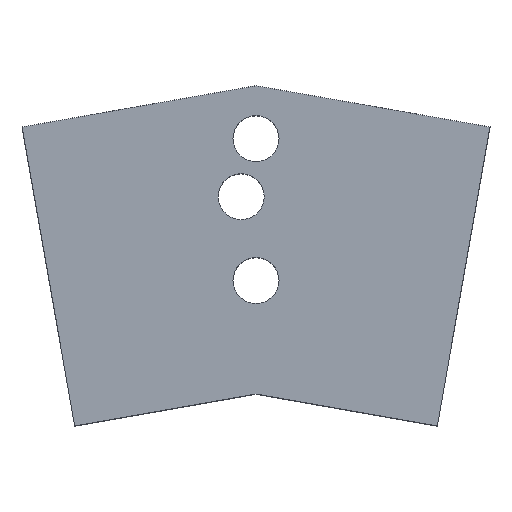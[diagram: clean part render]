
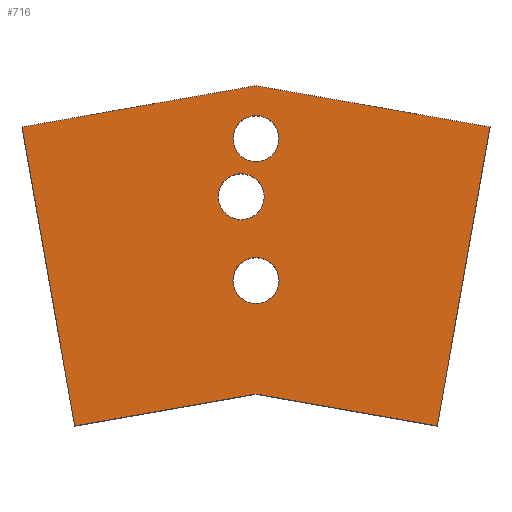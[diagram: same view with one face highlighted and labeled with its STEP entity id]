
A CAD part, top view. The second image highlights one B-rep face of the part: STEP entity #716.
In plain terms, the highlighted planar face has unit normal (0, 0, 1).
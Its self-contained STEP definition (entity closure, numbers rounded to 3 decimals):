
#200=CARTESIAN_POINT('',(1.621,8.0,12.));
#201=VERTEX_POINT('',#200);
#202=CARTESIAN_POINT('',(0.0,8.0,12.));
#203=DIRECTION('',(0.0,0.0,-1.0));
#204=DIRECTION('',(1.0,0.0,0.0));
#205=AXIS2_PLACEMENT_3D('',#202,#203,#204);
#206=CIRCLE('',#205,1.621);
#207=EDGE_CURVE('',#201,#201,#206,.T.);
#228=CARTESIAN_POINT('',(1.621,18.0,12.));
#229=VERTEX_POINT('',#228);
#230=CARTESIAN_POINT('',(0.0,18.0,12.));
#231=DIRECTION('',(0.0,0.0,-1.0));
#232=DIRECTION('',(1.0,0.0,0.0));
#233=AXIS2_PLACEMENT_3D('',#230,#231,#232);
#234=CIRCLE('',#233,1.621);
#235=EDGE_CURVE('',#229,#229,#234,.T.);
#256=CARTESIAN_POINT('',(0.579,13.909,12.));
#257=VERTEX_POINT('',#256);
#258=CARTESIAN_POINT('',(-1.042,13.909,12.));
#259=DIRECTION('',(0.0,0.0,-1.0));
#260=DIRECTION('',(1.0,0.0,0.0));
#261=AXIS2_PLACEMENT_3D('',#258,#259,#260);
#262=CIRCLE('',#261,1.621);
#263=EDGE_CURVE('',#257,#257,#262,.T.);
#495=CARTESIAN_POINT('',(0.0,21.73,12.));
#496=VERTEX_POINT('',#495);
#497=CARTESIAN_POINT('',(16.489,18.823,12.));
#498=VERTEX_POINT('',#497);
#499=CARTESIAN_POINT('',(0.0,21.73,12.));
#500=DIRECTION('',(0.985,-0.174,0.0));
#501=VECTOR('',#500,16.743);
#502=LINE('',#499,#501);
#503=EDGE_CURVE('',#496,#498,#502,.T.);
#538=CARTESIAN_POINT('',(12.773,-2.252,12.));
#539=VERTEX_POINT('',#538);
#540=CARTESIAN_POINT('',(16.489,18.823,12.));
#541=DIRECTION('',(-0.174,-0.985,0.0));
#542=VECTOR('',#541,21.4);
#543=LINE('',#540,#542);
#544=EDGE_CURVE('',#498,#539,#543,.T.);
#572=CARTESIAN_POINT('',(0.0,0.0,12.));
#573=VERTEX_POINT('',#572);
#574=CARTESIAN_POINT('',(12.773,-2.252,12.));
#575=DIRECTION('',(-0.985,0.174,0.0));
#576=VECTOR('',#575,12.97);
#577=LINE('',#574,#576);
#578=EDGE_CURVE('',#539,#573,#577,.T.);
#606=CARTESIAN_POINT('',(-12.773,-2.252,12.));
#607=VERTEX_POINT('',#606);
#608=CARTESIAN_POINT('',(-16.489,18.823,12.));
#609=VERTEX_POINT('',#608);
#610=CARTESIAN_POINT('',(-12.773,-2.252,12.));
#611=DIRECTION('',(-0.174,0.985,0.0));
#612=VECTOR('',#611,21.4);
#613=LINE('',#610,#612);
#614=EDGE_CURVE('',#607,#609,#613,.T.);
#649=CARTESIAN_POINT('',(-16.489,18.823,12.));
#650=DIRECTION('',(0.985,0.174,0.0));
#651=VECTOR('',#650,16.743);
#652=LINE('',#649,#651);
#653=EDGE_CURVE('',#609,#496,#652,.T.);
#674=CARTESIAN_POINT('',(0.0,0.0,12.));
#675=DIRECTION('',(-0.985,-0.174,0.0));
#676=VECTOR('',#675,12.97);
#677=LINE('',#674,#676);
#678=EDGE_CURVE('',#573,#607,#677,.T.);
#694=CARTESIAN_POINT('',(-7.33,10.135,12.));
#695=DIRECTION('',(0.0,0.0,1.0));
#696=DIRECTION('',(1.0,0.0,0.0));
#697=AXIS2_PLACEMENT_3D('',#694,#695,#696);
#698=PLANE('',#697);
#699=ORIENTED_EDGE('',*,*,#614,.F.);
#700=ORIENTED_EDGE('',*,*,#678,.F.);
#701=ORIENTED_EDGE('',*,*,#578,.F.);
#702=ORIENTED_EDGE('',*,*,#544,.F.);
#703=ORIENTED_EDGE('',*,*,#503,.F.);
#704=ORIENTED_EDGE('',*,*,#653,.F.);
#705=EDGE_LOOP('',(#699,#700,#701,#702,#703,#704));
#706=FACE_OUTER_BOUND('',#705,.T.);
#707=ORIENTED_EDGE('',*,*,#207,.T.);
#708=EDGE_LOOP('',(#707));
#709=FACE_BOUND('',#708,.T.);
#710=ORIENTED_EDGE('',*,*,#235,.T.);
#711=EDGE_LOOP('',(#710));
#712=FACE_BOUND('',#711,.T.);
#713=ORIENTED_EDGE('',*,*,#263,.T.);
#714=EDGE_LOOP('',(#713));
#715=FACE_BOUND('',#714,.T.);
#716=ADVANCED_FACE('',(#706,#709,#712,#715),#698,.T.);
